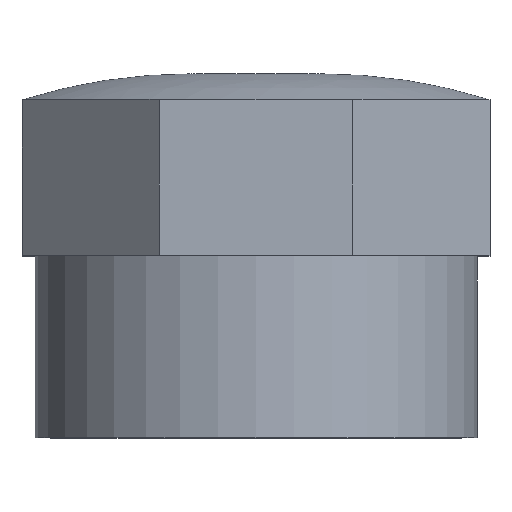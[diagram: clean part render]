
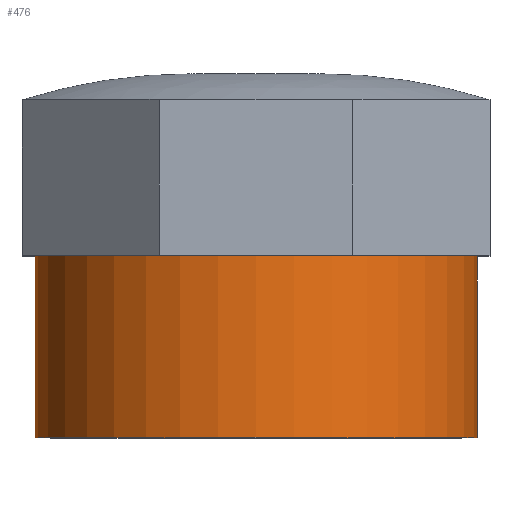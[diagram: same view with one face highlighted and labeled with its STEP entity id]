
A CAD part, top view. The second image highlights one B-rep face of the part: STEP entity #476.
In plain terms, the highlighted cylindrical face has radius 17 mm (diameter 34 mm), a full revolution.
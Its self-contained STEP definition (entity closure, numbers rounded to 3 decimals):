
#21=FACE_BOUND('',#180,.T.);
#24=CYLINDRICAL_SURFACE('',#519,17.);
#145=FACE_OUTER_BOUND('',#179,.T.);
#179=EDGE_LOOP('',(#440));
#180=EDGE_LOOP('',(#441));
#193=CIRCLE('',#511,17.);
#197=CIRCLE('',#518,17.);
#245=VERTEX_POINT('',#4043);
#249=VERTEX_POINT('',#4084);
#308=EDGE_CURVE('',#245,#245,#193,.T.);
#313=EDGE_CURVE('',#249,#249,#197,.T.);
#440=ORIENTED_EDGE('',*,*,#308,.F.);
#441=ORIENTED_EDGE('',*,*,#313,.T.);
#476=ADVANCED_FACE('',(#145,#21),#24,.T.);
#511=AXIS2_PLACEMENT_3D('',#4044,#621,#622);
#518=AXIS2_PLACEMENT_3D('',#4085,#635,#636);
#519=AXIS2_PLACEMENT_3D('',#4086,#637,#638);
#621=DIRECTION('center_axis',(0.,1.,0.));
#622=DIRECTION('ref_axis',(1.,0.,0.));
#635=DIRECTION('center_axis',(0.,1.,0.));
#636=DIRECTION('ref_axis',(1.,0.,0.));
#637=DIRECTION('center_axis',(0.,1.,0.));
#638=DIRECTION('ref_axis',(-1.,0.,0.));
#4043=CARTESIAN_POINT('',(-17.,14.,0.));
#4044=CARTESIAN_POINT('Origin',(0.,14.,0.));
#4084=CARTESIAN_POINT('',(-17.,0.,0.));
#4085=CARTESIAN_POINT('Origin',(0.,0.,0.));
#4086=CARTESIAN_POINT('Origin',(0.,7.,0.));
